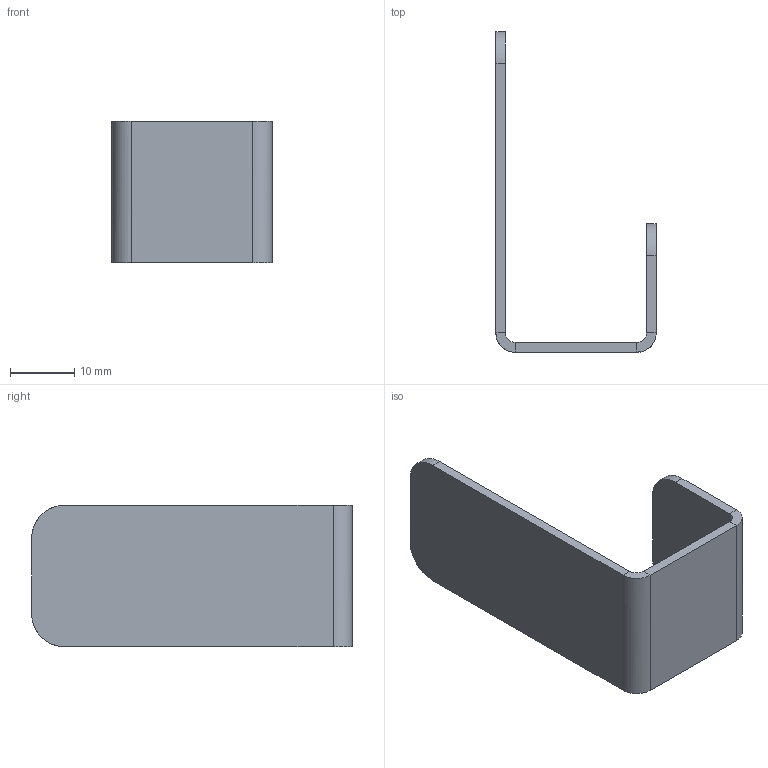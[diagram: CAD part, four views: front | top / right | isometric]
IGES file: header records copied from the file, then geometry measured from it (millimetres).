
Global section: file name: Haczyk na ręczniki  NUV,; native system: Autodesk Inventor 2018; preprocessor: unknown; author: Marcel; date: 20200217.131623; units: millimetre
Bounding box: 25 x 50 x 22 mm (x, y, z)
Volume: 2940.1 mm3; surface area: 4243.4 mm2
Topology: 1 solids, 1 shells, 26 faces, 56 edges, 32 vertices
Faces by surface type: bspline 26
